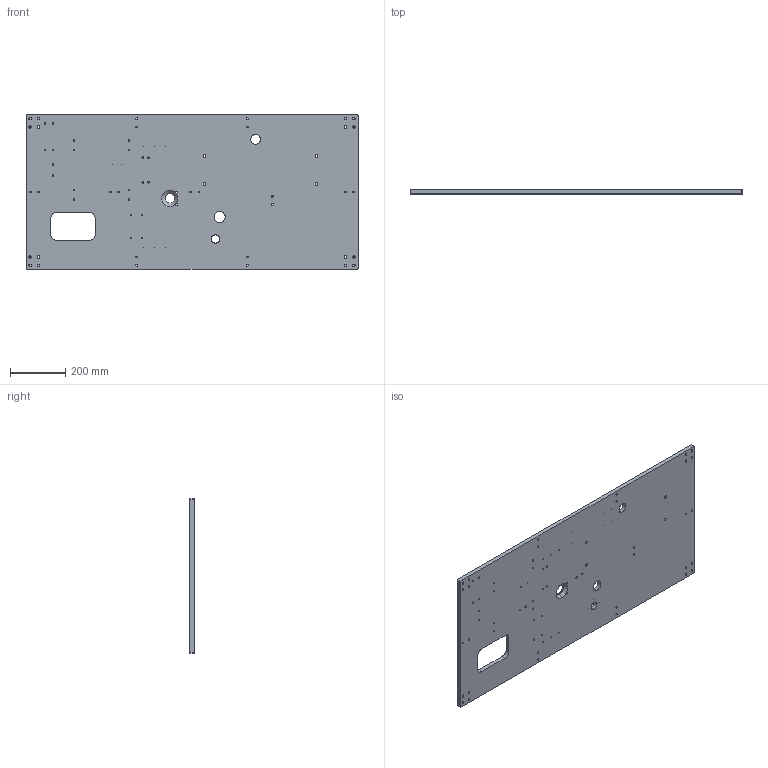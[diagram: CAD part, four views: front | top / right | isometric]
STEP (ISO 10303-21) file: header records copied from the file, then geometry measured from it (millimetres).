
FILE_DESCRIPTION (( 'STEP AP214' ), '1' );
FILE_NAME ('AGZ061.01_V1底板.STEP', '2021-09-22T07:39:44', ( '微软中国' ), ( 'Microsoft' ), 'SwSTEP 2.0', 'SolidWorks 2017', '' );
FILE_SCHEMA (( 'AUTOMOTIVE_DESIGN' ));
Length unit declared in the file: millimetre
Products named in the file (1): AGZ061.01_V1菁啣
Bounding box: 1200 x 15 x 560 mm (x, y, z)
Volume: 9714857.2 mm3; surface area: 1393322.3 mm2
Topology: 1 solids, 1 shells, 326 faces, 838 edges, 536 vertices
Faces by surface type: cylinder 244, plane 44, cone 38
Entity records: 11368 total; most frequent: DIRECTION 1980, CARTESIAN_POINT 1699, ORIENTED_EDGE 1636, AXIS2_PLACEMENT_3D 837, EDGE_CURVE 818, VERTEX_POINT 536, EDGE_LOOP 518, CIRCLE 510
